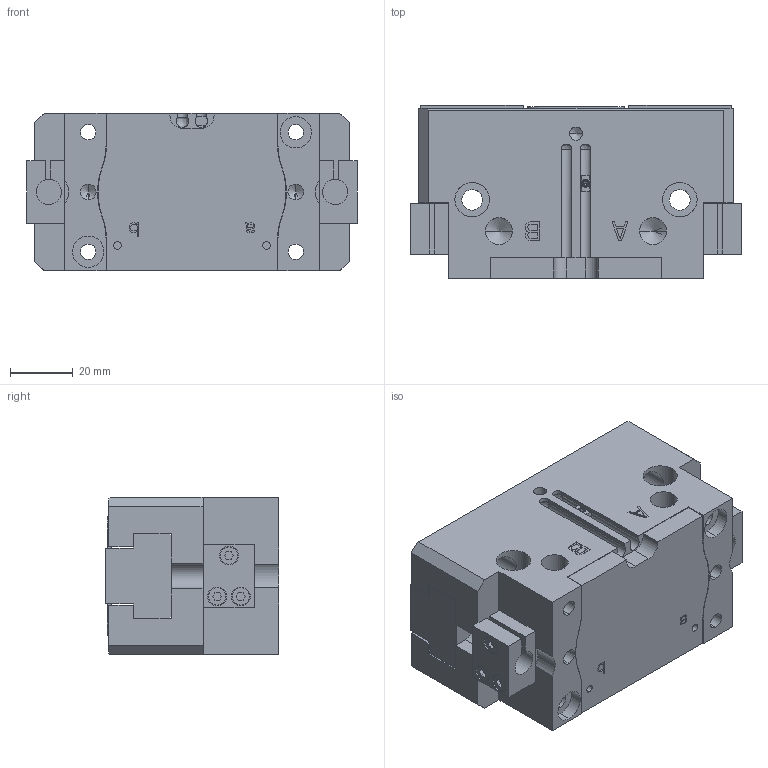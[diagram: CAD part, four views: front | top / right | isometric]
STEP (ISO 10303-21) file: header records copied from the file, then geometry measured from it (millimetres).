
FILE_DESCRIPTION (( 'STEP AP214' ), '1' );
FILE_NAME ('FPT 100A-1.STEP', '2021-09-18T04:12:43', ( 'DEEP' ), ( 'Microsoft' ), 'SwSTEP 2.0', 'SolidWorks 2016', '' );
FILE_SCHEMA (( 'AUTOMOTIVE_DESIGN' ));
Length unit declared in the file: millimetre
Products named in the file (15): FPT 100A-1-004; FPT 100A-1-005; FPT 100A-1-001; FPT 100A-1-006; FPT 100A-1-002; FPT 100A-1-003; FPT 100A-1
Assembly tree (8 placements, depth 2):
  FPT 100A-1-004
  FPT 100A-1-005
  FPT 100A-1-001
  FPT 100A-1-001
  FPT 100A-1-006
Bounding box: 105 x 55 x 50 mm (x, y, z)
Volume: 227797.6 mm3; surface area: 64681.2 mm2
Topology: 8 solids, 8 shells, 619 faces, 1618 edges, 1035 vertices
Faces by surface type: plane 380, cylinder 165, cone 68, bspline 6
Entity records: 17553 total; most frequent: CARTESIAN_POINT 3651, ORIENTED_EDGE 2740, DIRECTION 2736, EDGE_CURVE 1370, VECTOR 1008, LINE 1008, VERTEX_POINT 903, AXIS2_PLACEMENT_3D 864
